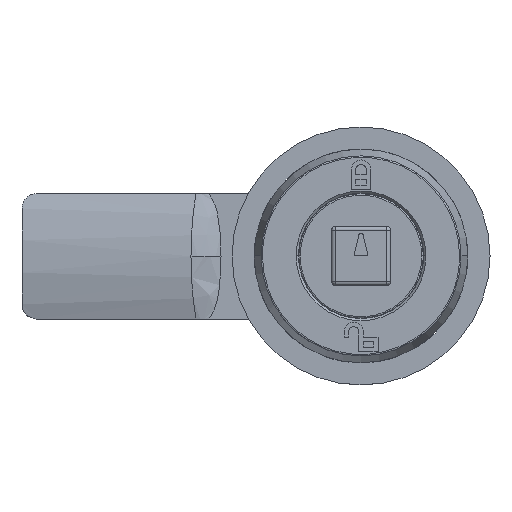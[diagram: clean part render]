
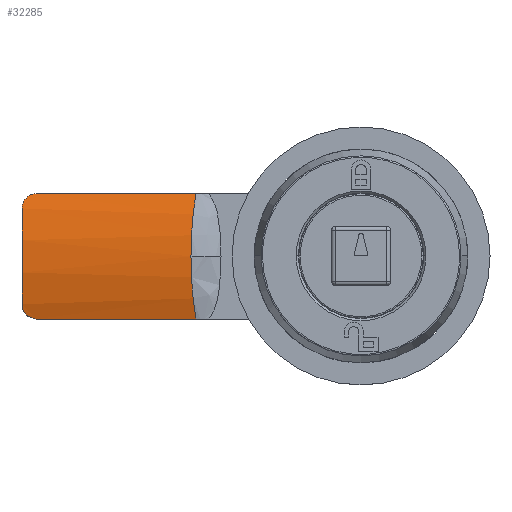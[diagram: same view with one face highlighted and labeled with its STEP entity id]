
A CAD part, top view. The second image highlights one B-rep face of the part: STEP entity #32285.
In plain terms, the highlighted cylindrical face has radius 27.373 mm (diameter 54.746 mm), a partial arc.
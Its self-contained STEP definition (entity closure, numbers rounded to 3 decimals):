
#16099 = VERTEX_POINT ( 'NONE', #58703 ) ;
#16267 = VERTEX_POINT ( 'NONE', #58763 ) ;
#16274 = VERTEX_POINT ( 'NONE', #58766 ) ;
#16276 = VERTEX_POINT ( 'NONE', #58767 ) ;
#16439 = VERTEX_POINT ( 'NONE', #58791 ) ;
#16713 = VERTEX_POINT ( 'NONE', #58825 ) ;
#16715 = VERTEX_POINT ( 'NONE', #58830 ) ;
#17101 = EDGE_LOOP ( 'NONE', ( #45922, #45923, #45924, #45925, #45926, #45927, #45928 ) ) ;
#29392 = VECTOR ( 'NONE', #30802, 1000. ) ;
#29394 = VECTOR ( 'NONE', #30811, 1000. ) ;
#29417 = CIRCLE ( 'NONE', #29419, 27.373 ) ;
#29419 = AXIS2_PLACEMENT_3D ( 'NONE', #31039, #31040, #31042 ) ;
#30797 = LINE ( 'NONE', #30800, #29392 ) ;
#30800 = CARTESIAN_POINT ( 'NONE',  ( -14.223, -8.5, -38.753 ) ) ;
#30802 = DIRECTION ( 'NONE',  ( 1., 0., 0. ) ) ;
#30808 = LINE ( 'NONE', #30810, #29394 ) ;
#30810 = CARTESIAN_POINT ( 'NONE',  ( -44., 8.5, -38.753 ) ) ;
#30811 = DIRECTION ( 'NONE',  ( 1., 0., 0. ) ) ;
#30820 = CARTESIAN_POINT ( 'NONE',  ( -44., 8.5, -38.753 ) ) ;
#30822 = CARTESIAN_POINT ( 'NONE',  ( -44.135, 8.5, -38.753 ) ) ;
#30836 = CARTESIAN_POINT ( 'NONE',  ( -44.267, 8.487, -38.748 ) ) ;
#30838 = CARTESIAN_POINT ( 'NONE',  ( -44.527, 8.434, -38.731 ) ) ;
#30839 = CARTESIAN_POINT ( 'NONE',  ( -44.656, 8.394, -38.718 ) ) ;
#30840 = CARTESIAN_POINT ( 'NONE',  ( -44.899, 8.291, -38.685 ) ) ;
#30842 = CARTESIAN_POINT ( 'NONE',  ( -45.015, 8.229, -38.666 ) ) ;
#30843 = CARTESIAN_POINT ( 'NONE',  ( -45.232, 8.081, -38.619 ) ) ;
#30844 = CARTESIAN_POINT ( 'NONE',  ( -45.334, 7.996, -38.593 ) ) ;
#30846 = CARTESIAN_POINT ( 'NONE',  ( -45.607, 7.718, -38.51 ) ) ;
#30847 = CARTESIAN_POINT ( 'NONE',  ( -45.753, 7.496, -38.445 ) ) ;
#30848 = CARTESIAN_POINT ( 'NONE',  ( -45.9, 7.139, -38.347 ) ) ;
#30850 = CARTESIAN_POINT ( 'NONE',  ( -45.937, 7.014, -38.313 ) ) ;
#30851 = CARTESIAN_POINT ( 'NONE',  ( -45.987, 6.76, -38.247 ) ) ;
#30852 = CARTESIAN_POINT ( 'NONE',  ( -46., 6.631, -38.215 ) ) ;
#30853 = CARTESIAN_POINT ( 'NONE',  ( -46., 6.5, -38.183 ) ) ;
#30855 = CARTESIAN_POINT ( 'NONE',  ( -23.076, 2.856, -37.4 ) ) ;
#30908 = CARTESIAN_POINT ( 'NONE',  ( -23.076, 0., -37.4 ) ) ;
#30914 = CARTESIAN_POINT ( 'NONE',  ( -22.855, 5.738, -37.851 ) ) ;
#30915 = CARTESIAN_POINT ( 'NONE',  ( -22.415, 8.5, -38.753 ) ) ;
#30922 = CARTESIAN_POINT ( 'NONE',  ( -22.415, -8.5, -38.753 ) ) ;
#30925 = CARTESIAN_POINT ( 'NONE',  ( -22.855, -5.738, -37.851 ) ) ;
#30934 = CARTESIAN_POINT ( 'NONE',  ( -23.076, -2.856, -37.4 ) ) ;
#30936 = CARTESIAN_POINT ( 'NONE',  ( -23.076, 0., -37.4 ) ) ;
#30939 = CARTESIAN_POINT ( 'NONE',  ( -46., -6.631, -38.215 ) ) ;
#30940 = CARTESIAN_POINT ( 'NONE',  ( -46., -6.5, -38.183 ) ) ;
#30946 = CARTESIAN_POINT ( 'NONE',  ( -45.987, -6.759, -38.247 ) ) ;
#30947 = CARTESIAN_POINT ( 'NONE',  ( -45.938, -7.012, -38.313 ) ) ;
#30949 = CARTESIAN_POINT ( 'NONE',  ( -45.9, -7.137, -38.346 ) ) ;
#30950 = CARTESIAN_POINT ( 'NONE',  ( -45.802, -7.377, -38.412 ) ) ;
#30951 = CARTESIAN_POINT ( 'NONE',  ( -45.742, -7.491, -38.444 ) ) ;
#30952 = CARTESIAN_POINT ( 'NONE',  ( -45.6, -7.707, -38.507 ) ) ;
#30954 = CARTESIAN_POINT ( 'NONE',  ( -45.517, -7.809, -38.537 ) ) ;
#30956 = CARTESIAN_POINT ( 'NONE',  ( -45.335, -7.995, -38.593 ) ) ;
#30958 = CARTESIAN_POINT ( 'NONE',  ( -45.235, -8.079, -38.619 ) ) ;
#30960 = CARTESIAN_POINT ( 'NONE',  ( -45.018, -8.227, -38.665 ) ) ;
#30962 = CARTESIAN_POINT ( 'NONE',  ( -44.9, -8.291, -38.685 ) ) ;
#30963 = CARTESIAN_POINT ( 'NONE',  ( -44.536, -8.445, -38.735 ) ) ;
#30965 = CARTESIAN_POINT ( 'NONE',  ( -44.27, -8.5, -38.753 ) ) ;
#30967 = CARTESIAN_POINT ( 'NONE',  ( -44., -8.5, -38.753 ) ) ;
#31039 = CARTESIAN_POINT ( 'NONE',  ( -46., 0., -64.772 ) ) ;
#31040 = DIRECTION ( 'NONE',  ( 1., 0., 0. ) ) ;
#31042 = DIRECTION ( 'NONE',  ( 0., 1., 0. ) ) ;
#32285 = ADVANCED_FACE ( 'NONE', ( #62533 ), #62532, .T. ) ;
#43575 = B_SPLINE_CURVE_WITH_KNOTS ( 'NONE', 3,
 ( #30820, #30822, #30836, #30838, #30839, #30840, #30842, #30843, #30844, #30846, #30847, #30848, #30850, #30851, #30852, #30853 ),
 .UNSPECIFIED., .F., .F.,
 ( 4, 2, 2, 2, 2, 2, 2, 4 ),
 ( 0., 0., 0.001, 0.001, 0.002, 0.002, 0.003, 0.003 ),
 .UNSPECIFIED. ) ;
#43577 = B_SPLINE_CURVE_WITH_KNOTS ( 'NONE', 3,
 ( #30908, #30855, #30914, #30915 ),
 .UNSPECIFIED., .F., .F.,
 ( 4, 4 ),
 ( 0., 1. ),
 .UNSPECIFIED. ) ;
#43580 = B_SPLINE_CURVE_WITH_KNOTS ( 'NONE', 3,
 ( #30922, #30925, #30934, #30936 ),
 .UNSPECIFIED., .F., .F.,
 ( 4, 4 ),
 ( 0., 1. ),
 .UNSPECIFIED. ) ;
#43581 = B_SPLINE_CURVE_WITH_KNOTS ( 'NONE', 3,
 ( #30940, #30939, #30946, #30947, #30949, #30950, #30951, #30952, #30954, #30956, #30958, #30960, #30962, #30963, #30965, #30967 ),
 .UNSPECIFIED., .F., .F.,
 ( 4, 2, 2, 2, 2, 2, 2, 4 ),
 ( 0., 0., 0.001, 0.001, 0.002, 0.002, 0.002, 0.003 ),
 .UNSPECIFIED. ) ;
#45922 = ORIENTED_EDGE ( 'NONE', *, *, #69218, .F. ) ;
#45923 = ORIENTED_EDGE ( 'NONE', *, *, #69223, .T. ) ;
#45924 = ORIENTED_EDGE ( 'NONE', *, *, #69257, .T. ) ;
#45925 = ORIENTED_EDGE ( 'NONE', *, *, #69244, .T. ) ;
#45926 = ORIENTED_EDGE ( 'NONE', *, *, #69213, .T. ) ;
#45927 = ORIENTED_EDGE ( 'NONE', *, *, #69239, .T. ) ;
#45928 = ORIENTED_EDGE ( 'NONE', *, *, #69234, .T. ) ;
#58703 = CARTESIAN_POINT ( 'NONE',  ( -23.076, 0., -37.4 ) ) ;
#58763 = CARTESIAN_POINT ( 'NONE',  ( -44., 8.5, -38.753 ) ) ;
#58766 = CARTESIAN_POINT ( 'NONE',  ( -22.415, -8.5, -38.753 ) ) ;
#58767 = CARTESIAN_POINT ( 'NONE',  ( -44., -8.5, -38.753 ) ) ;
#58791 = CARTESIAN_POINT ( 'NONE',  ( -22.415, 8.5, -38.753 ) ) ;
#58825 = CARTESIAN_POINT ( 'NONE',  ( -46., 6.5, -38.183 ) ) ;
#58830 = CARTESIAN_POINT ( 'NONE',  ( -46., -6.5, -38.183 ) ) ;
#61812 = AXIS2_PLACEMENT_3D ( 'NONE', #62534, #62544, #62545 ) ;
#62532 = CYLINDRICAL_SURFACE ( 'NONE', #61812, 27.373 ) ;
#62533 = FACE_OUTER_BOUND ( 'NONE', #17101, .T. ) ;
#62534 = CARTESIAN_POINT ( 'NONE',  ( -30.25, 0., -64.772 ) ) ;
#62544 = DIRECTION ( 'NONE',  ( 1., 0., 0. ) ) ;
#62545 = DIRECTION ( 'NONE',  ( 0., 1., 0. ) ) ;
#69213 = EDGE_CURVE ( 'NONE', #16276, #16274, #30797, .T. ) ;
#69218 = EDGE_CURVE ( 'NONE', #16267, #16439, #30808, .T. ) ;
#69223 = EDGE_CURVE ( 'NONE', #16267, #16713, #43575, .T. ) ;
#69234 = EDGE_CURVE ( 'NONE', #16099, #16439, #43577, .T. ) ;
#69239 = EDGE_CURVE ( 'NONE', #16274, #16099, #43580, .T. ) ;
#69244 = EDGE_CURVE ( 'NONE', #16715, #16276, #43581, .T. ) ;
#69257 = EDGE_CURVE ( 'NONE', #16713, #16715, #29417, .T. ) ;
